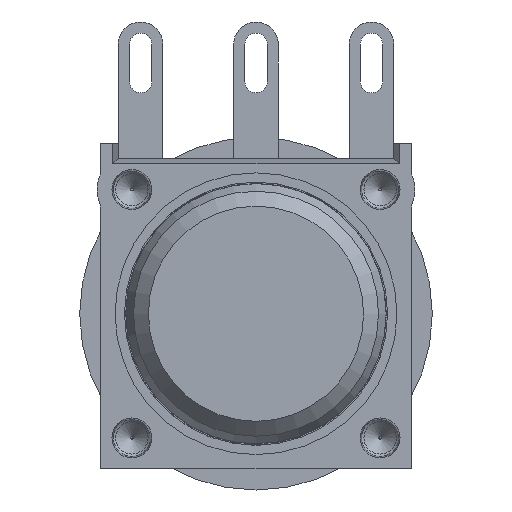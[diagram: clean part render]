
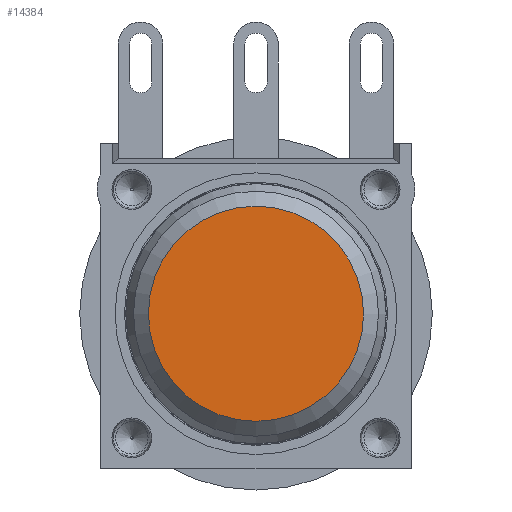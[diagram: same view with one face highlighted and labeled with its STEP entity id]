
A CAD part, left-side view. The second image highlights one B-rep face of the part: STEP entity #14384.
In plain terms, the highlighted planar face has unit normal (-1, 0, 0) as drawn and (0, 0, 1) by its records, which use the part's own axes.
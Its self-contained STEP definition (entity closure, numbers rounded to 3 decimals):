
#450=PLANE('',#16203);
#5208=ORIENTED_EDGE('',*,*,#8577,.T.);
#8577=EDGE_CURVE('',#10423,#10423,#11556,.T.);
#10423=VERTEX_POINT('',#22498);
#11556=CIRCLE('',#16204,4.334);
#12223=EDGE_LOOP('',(#5208));
#13258=FACE_BOUND('',#12223,.T.);
#14384=ADVANCED_FACE('',(#13258),#450,.T.);
#16203=AXIS2_PLACEMENT_3D('',#22496,#18602,#18603);
#16204=AXIS2_PLACEMENT_3D('',#22497,#18604,#18605);
#18602=DIRECTION('',(0.,0.,1.));
#18603=DIRECTION('',(1.,0.,0.));
#18604=DIRECTION('',(0.,0.,1.));
#18605=DIRECTION('',(1.,0.,0.));
#22496=CARTESIAN_POINT('',(0.,0.,1.4));
#22497=CARTESIAN_POINT('',(0.,0.,1.4));
#22498=CARTESIAN_POINT('',(4.334,0.,1.4));
